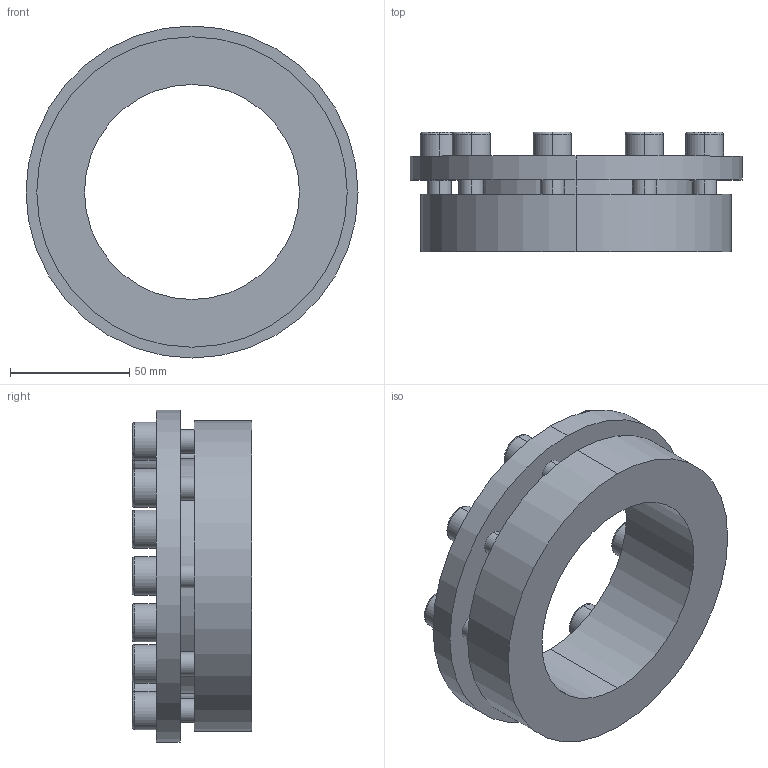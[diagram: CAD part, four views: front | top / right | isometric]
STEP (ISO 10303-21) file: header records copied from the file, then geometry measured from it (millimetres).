
FILE_DESCRIPTION (( 'STEP AP203' ), '1' );
FILE_NAME ('PL-H6 90-130.STEP', '2021-10-23T01:38:16', ( '' ), ( '' ), 'SwSTEP 2.0', 'SolidWorks 2018', '' );
FILE_SCHEMA (( 'CONFIG_CONTROL_DESIGN' ));
Length unit declared in the file: millimetre
Products named in the file (1): PL-H6 90-130
Bounding box: 139 x 50 x 139 mm (x, y, z)
Volume: 280841.3 mm3; surface area: 62267.6 mm2
Topology: 1 solids, 1 shells, 138 faces, 330 edges, 214 vertices
Faces by surface type: plane 76, cylinder 44, torus 18
Entity records: 4131 total; most frequent: DIRECTION 732, CARTESIAN_POINT 683, ORIENTED_EDGE 660, EDGE_CURVE 330, AXIS2_PLACEMENT_3D 263, VERTEX_POINT 214, VECTOR 206, LINE 206
